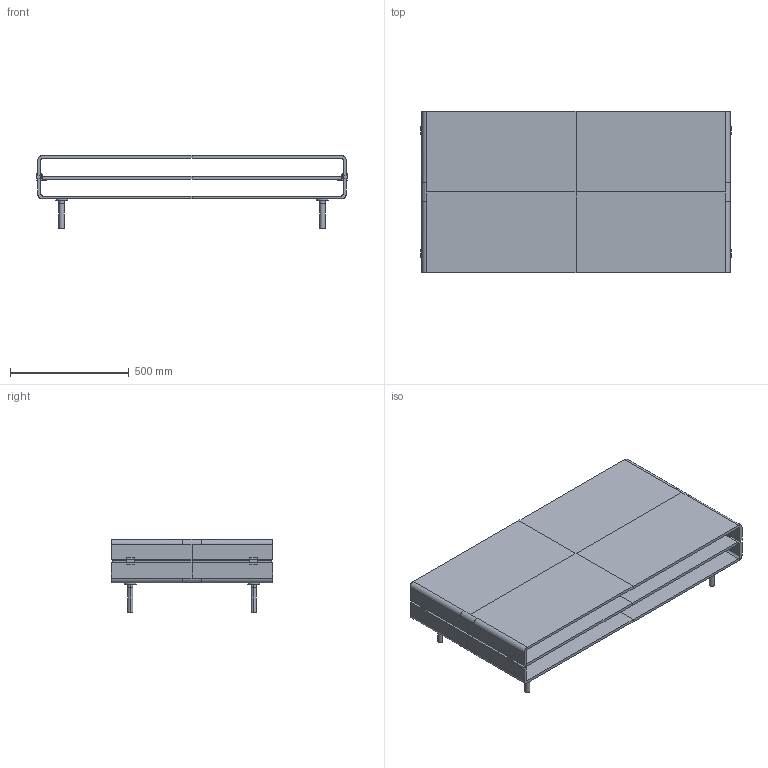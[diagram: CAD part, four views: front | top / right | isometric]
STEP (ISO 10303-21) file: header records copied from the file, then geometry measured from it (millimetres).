
FILE_DESCRIPTION(/* description */ (''),/* implementation_level */ '2;1');
FILE_NAME(/* name */ '203.330 - C&C 130x68 piedini+ripiano',/* time_stamp */ '2010-11-04T09:57:01+01:00',/* author */ (''),/* organization */ (''),/* preprocessor_version */ 'ST-DEVELOPER v10',/* originating_system */ '',/* authorisation */ '');
FILE_SCHEMA (('CONFIG_CONTROL_DESIGN'));
Length unit declared in the file: centimetre
Products named in the file (1): 1
Bounding box: 1308 x 680 x 309 mm (x, y, z)
Volume: 33896913.8 mm3; surface area: 5845742.9 mm2
Topology: 19 solids, 19 shells, 262 faces, 626 edges, 402 vertices
Faces by surface type: plane 174, bspline 88
Entity records: 7284 total; most frequent: CARTESIAN_POINT 3066, ORIENTED_EDGE 1252, EDGE_CURVE 626, B_SPLINE_CURVE_WITH_KNOTS 486, VERTEX_POINT 402, EDGE_LOOP 266, ADVANCED_FACE 262, FACE_OUTER_BOUND 262
